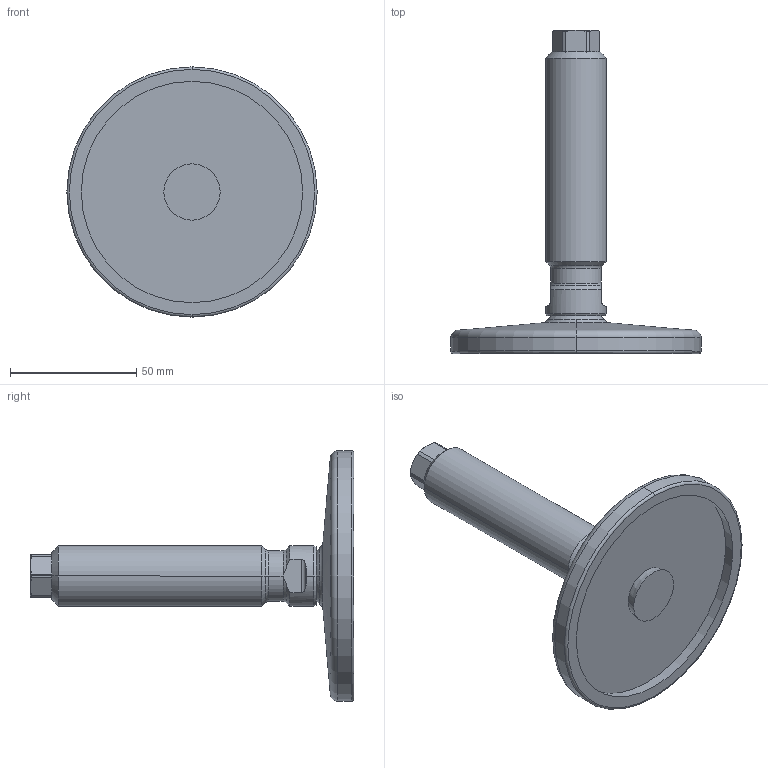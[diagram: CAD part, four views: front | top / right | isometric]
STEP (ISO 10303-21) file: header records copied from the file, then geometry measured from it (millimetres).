
FILE_DESCRIPTION (( 'STEP AP214' ), '1' );
FILE_NAME ('21-100-M24-100-D0-V.step', '2020-10-02T17:36:48', ( '' ), ( '' ), 'SwSTEP 2.0', 'SolidWorks 2019', '' );
FILE_SCHEMA (( 'AUTOMOTIVE_DESIGN' ));
Length unit declared in the file: millimetre
Products named in the file (3): WB21_Fußteller 21^WB21_V_D0-100-R14-B9 (M24); 21-100-M24-100-D0-V; WB21_Spindel_V^WB21_V_M24-100
Assembly tree (2 placements, depth 2):
  21-100-M24-100-D0-V
    WB21_Fußteller 21^WB21_V_D0-100-R14-B9 (M24)
    WB21_Spindel_V^WB21_V_M24-100
Bounding box: 99 x 127.9 x 99 mm (x, y, z)
Volume: 102316.3 mm3; surface area: 28919.7 mm2
Topology: 2 solids, 2 shells, 79 faces, 177 edges, 105 vertices
Faces by surface type: cylinder 23, cone 21, plane 21, torus 10, sphere 4
Entity records: 2446 total; most frequent: CARTESIAN_POINT 530, DIRECTION 406, ORIENTED_EDGE 354, EDGE_CURVE 177, AXIS2_PLACEMENT_3D 173, VERTEX_POINT 105, CIRCLE 89, EDGE_LOOP 82
